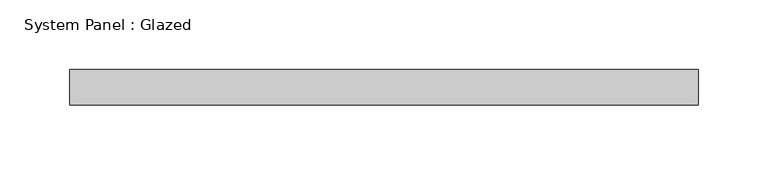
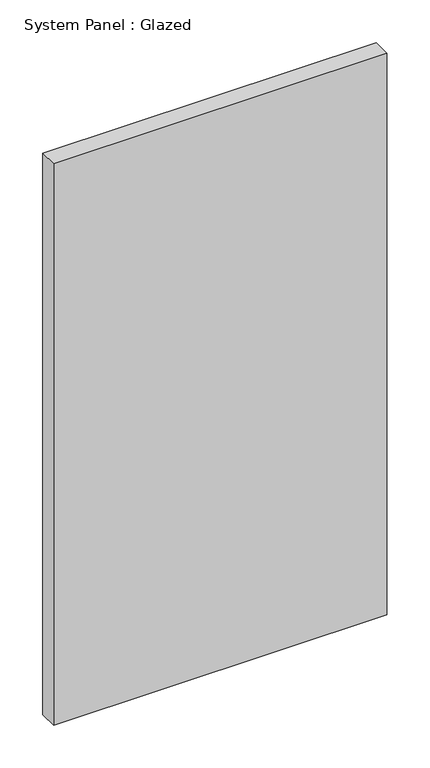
"""IFC4 building model written with IfcOpenShell, lengths in millimetres: plate geometry, System Panel : Glazed."""

from ifc_helpers import new_model, si_unit, origin, origin_with_axes, place, context, project, spatial, polyline, outline, extrude, source, transform, mapped, element, save


def system_panel_glazed_530670f7(model_context):
    return source(origin(), model_context, "Body", "SweptSolid", [
        extrude(outline(polyline([(225.4, 19.05), (-225.4, 19.05), (-225.4, 44.45), (225.4, 44.45), (225.4, 19.05)])), origin_with_axes(), (0.0, 0.0, 1.0), 802.4190025),
    ])


if __name__ == "__main__":
    model = new_model("IFC4")
    model_context = context("Model", 3, world=origin())
    ifc_project = project(units=[si_unit("LENGTHUNIT", "METRE", prefix="MILLI")], contexts=[model_context])
    site = spatial("IfcSite", under=ifc_project)
    building = spatial("IfcBuilding", under=site)
    placement = place(None, origin())
    system_panel_glazed_shape = system_panel_glazed_530670f7(model_context)
    element("IfcPlate", 1, ObjectType="System Panel : Glazed", at=placement, inside=building, context=model_context, shape_type="MappedRepresentation", body=[
        mapped(system_panel_glazed_shape, transform((0.0, 0.0, 0.0), x_axis=(1.0, 0.0, 0.0), y_axis=(0.0, 1.0, 0.0), z_axis=(0.0, 0.0, 1.0))),
    ])
    save(model, "model.ifc")
